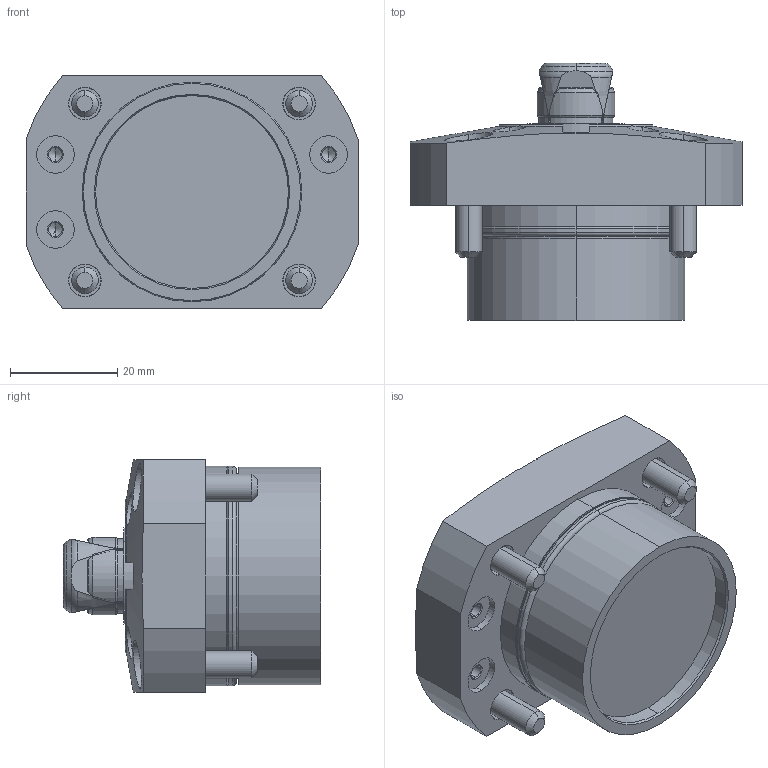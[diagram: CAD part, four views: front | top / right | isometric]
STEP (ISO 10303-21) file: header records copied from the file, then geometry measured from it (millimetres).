
FILE_DESCRIPTION (( 'STEP AP203' ), '1' );
FILE_NAME ('SFH2150.STEP', '2010-11-03T23:19:02', ( ' ' ), ( ' ' ), 'SwSTEP 2.0', 'SolidWorks 2010', '' );
FILE_SCHEMA (( 'CONFIG_CONTROL_DESIGN' ));
Length unit declared in the file: millimetre
Products named in the file (7): SFH2150_套菁轤礁诎蔬晅; 6妏寠晅无倌_M5_16; SFH2150; SFH2_钾堇轤O剌皋晅; φ15_ｽﾘｰﾌﾞ; 冇15_郫霓; 6妏寠晅无倌_M3_10
Assembly tree (12 placements, depth 2):
  SFH2150
    冇15_郫霓
    SFH2150_套菁轤礁诎蔬晅
    6妏寠晅无倌_M5_16  x4
    6妏寠晅无倌_M3_10  x4
    φ15_ｽﾘｰﾌﾞ
    SFH2_钾堇轤O剌皋晅
Bounding box: 62 x 48 x 43.5 mm (x, y, z)
Volume: 60141.3 mm3; surface area: 22150.1 mm2
Topology: 16 solids, 16 shells, 488 faces, 1015 edges, 566 vertices
Faces by surface type: plane 191, cone 156, cylinder 122, torus 19
Entity records: 10131 total; most frequent: CARTESIAN_POINT 2464, DIRECTION 1490, ORIENTED_EDGE 1358, EDGE_CURVE 679, AXIS2_PLACEMENT_3D 616, VERTEX_POINT 416, EDGE_LOOP 339, FACE_OUTER_BOUND 302
